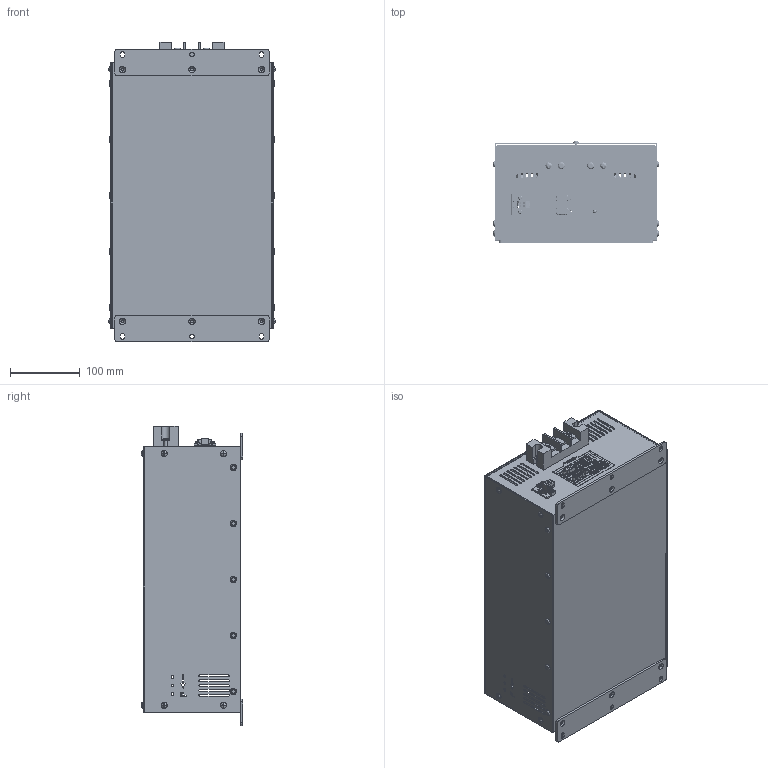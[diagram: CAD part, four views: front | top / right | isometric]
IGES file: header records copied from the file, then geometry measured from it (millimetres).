
Global section: file name: X3COM; native system: Autodesk Inventor 2021; preprocessor: unknown; author: EunSol Jang; date: 20211210.161730; units: millimetre
Bounding box: 238.84 x 145.97 x 430 mm (x, y, z)
Volume: 670097.5 mm3; surface area: 843376.5 mm2
Topology: 5 solids, 5 shells, 5517 faces, 15054 edges, 9918 vertices
Faces by surface type: bspline 5517
